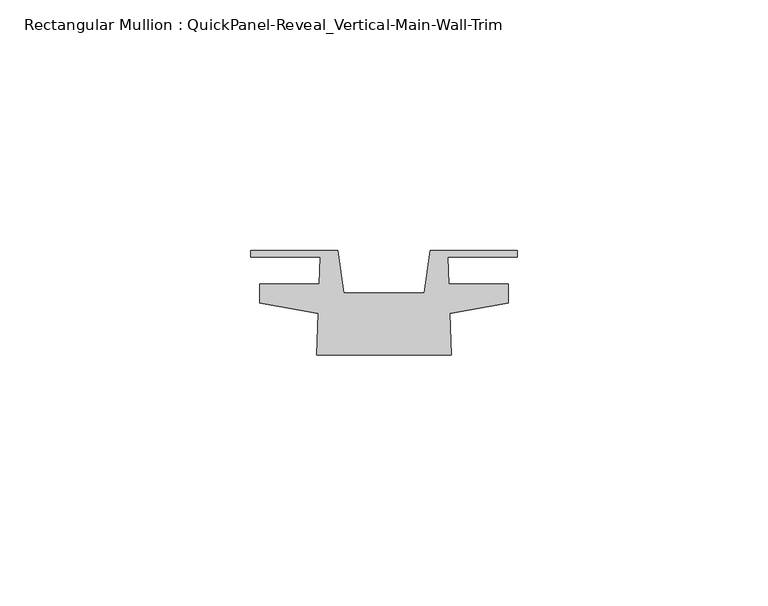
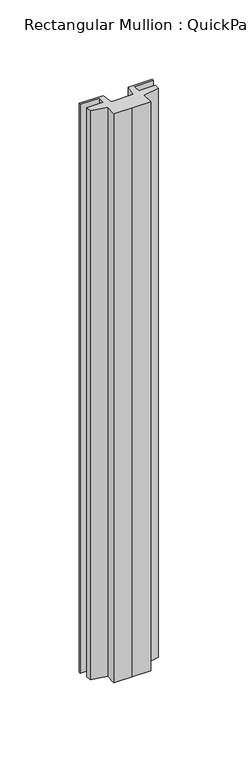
"""IFC4 building model written with IfcOpenShell, lengths in millimetres: member geometry, Rectangular Mullion : QuickPanel-Reveal_Vertical-Main-Wall-Trim."""

from ifc_helpers import new_model, si_unit, frame, origin, place, context, project, spatial, polyline, outline, extrude, source, transform, mapped, element, save


def rectangular_mullion_quickpanel_reveal_vertical_main_wall_c7273b40(model_context):
    return source(origin(), model_context, "Body", "SweptSolid", [
        extrude(outline(polyline([(0.0, -8.6293878), (-13.4106833, -8.6293878), (-13.1217462, -0.3553138), (-24.8306239, 1.6519631), (-24.8306239, 5.4833303), (-12.9178563, 5.4833303), (-12.7283398, 10.9103727), (-26.5942114, 10.9103727), (-26.5942114, 12.1803727), (-9.195281, 12.1803727), (-8.0065632, 3.7222065), (8.0065632, 3.7222065), (9.195281, 12.1803727), (26.5942114, 12.1803727), (26.5942114, 10.9103727), (12.7283398, 10.9103727), (12.9178563, 5.4833303), (24.8306239, 5.4833303), (24.8306239, 1.6519631), (13.1217462, -0.3553138), (13.4106833, -8.6293878), (0.0, -8.6293878)])), frame((0.0, 0.0, -438.2868283), z_axis=(0.0, 0.0, 1.0), x_axis=(1.0, 0.0, 0.0)), (0.0, 0.0, 1.0), 438.2868283),
    ])


if __name__ == "__main__":
    model = new_model("IFC4")
    model_context = context("Model", 3, world=origin())
    ifc_project = project(units=[si_unit("LENGTHUNIT", "METRE", prefix="MILLI")], contexts=[model_context])
    site = spatial("IfcSite", under=ifc_project)
    building = spatial("IfcBuilding", under=site)
    placement = place(None, origin())
    rectangular_mullion_quickpanel_reveal_vertical_main_wall_shape = rectangular_mullion_quickpanel_reveal_vertical_main_wall_c7273b40(model_context)
    element("IfcMember", 1, ObjectType="Rectangular Mullion : QuickPanel-Reveal_Vertical-Main-Wall-Trim", at=placement, inside=building, context=model_context, shape_type="MappedRepresentation", body=[
        mapped(rectangular_mullion_quickpanel_reveal_vertical_main_wall_shape, transform((0.0, 0.0, 0.0), x_axis=(1.0, 0.0, 0.0), y_axis=(0.0, 1.0, 0.0), z_axis=(0.0, 0.0, 1.0))),
    ])
    save(model, "model.ifc")
